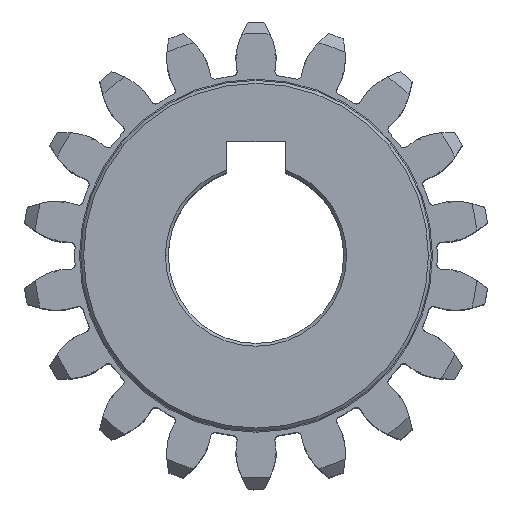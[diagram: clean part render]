
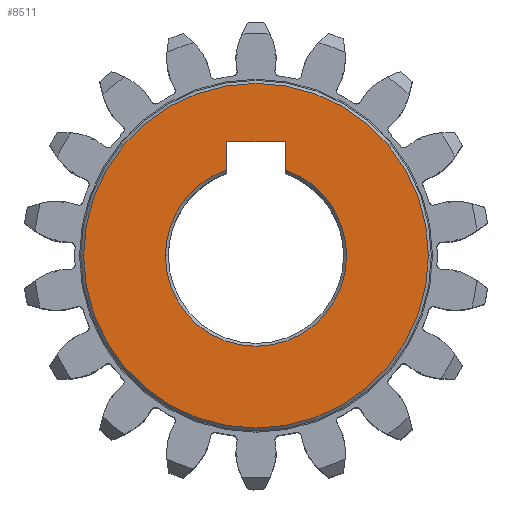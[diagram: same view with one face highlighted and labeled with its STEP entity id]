
A CAD part, top view. The second image highlights one B-rep face of the part: STEP entity #8511.
In plain terms, the highlighted planar face has unit normal (0, 0, 1).
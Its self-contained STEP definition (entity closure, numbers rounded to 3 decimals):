
#149 = VERTEX_POINT ( 'NONE', #7160 ) ;
#452 = CARTESIAN_POINT ( 'NONE',  ( -2.5, 7.336, 15. ) ) ;
#600 = ORIENTED_EDGE ( 'NONE', *, *, #6805, .T. ) ;
#635 = CIRCLE ( 'NONE', #6516, 14.75 ) ;
#829 = ORIENTED_EDGE ( 'NONE', *, *, #11218, .T. ) ;
#917 = CARTESIAN_POINT ( 'NONE',  ( -2.5, 5.2, 15. ) ) ;
#937 = VERTEX_POINT ( 'NONE', #9458 ) ;
#1458 = ORIENTED_EDGE ( 'NONE', *, *, #5210, .T. ) ;
#1547 = AXIS2_PLACEMENT_3D ( 'NONE', #8052, #5467, #8104 ) ;
#1621 = CARTESIAN_POINT ( 'NONE',  ( 2.5, 7.336, 15. ) ) ;
#1880 = CARTESIAN_POINT ( 'NONE',  ( 0., 0., 15. ) ) ;
#1908 = DIRECTION ( 'NONE',  ( 0., 0., -1. ) ) ;
#2032 = VERTEX_POINT ( 'NONE', #6965 ) ;
#2118 = CIRCLE ( 'NONE', #1547, 7.75 ) ;
#2296 = LINE ( 'NONE', #10042, #4450 ) ;
#2382 = DIRECTION ( 'NONE',  ( 0., 0., -1. ) ) ;
#2726 = DIRECTION ( 'NONE',  ( 0., 1., 0. ) ) ;
#2941 = ORIENTED_EDGE ( 'NONE', *, *, #6914, .T. ) ;
#3902 = EDGE_LOOP ( 'NONE', ( #10245, #9895, #1458, #2941, #10469, #829 ) ) ;
#3977 = VECTOR ( 'NONE', #7912, 1000. ) ;
#3979 = AXIS2_PLACEMENT_3D ( 'NONE', #1880, #5383, #9745 ) ;
#4161 = EDGE_CURVE ( 'NONE', #5226, #4443, #2118, .T. ) ;
#4163 = CARTESIAN_POINT ( 'NONE',  ( 0., 0., 15. ) ) ;
#4443 = VERTEX_POINT ( 'NONE', #5964 ) ;
#4450 = VECTOR ( 'NONE', #10270, 1000. ) ;
#4553 = DIRECTION ( 'NONE',  ( 1., 0., 0. ) ) ;
#4642 = EDGE_CURVE ( 'NONE', #149, #5226, #8995, .T. ) ;
#4816 = CIRCLE ( 'NONE', #11236, 14.75 ) ;
#4871 = VECTOR ( 'NONE', #2726, 1000. ) ;
#4960 = DIRECTION ( 'NONE',  ( 1., 0., 0. ) ) ;
#5010 = DIRECTION ( 'NONE',  ( 0., 0., 1. ) ) ;
#5127 = EDGE_LOOP ( 'NONE', ( #600, #7518 ) ) ;
#5210 = EDGE_CURVE ( 'NONE', #4443, #10730, #9426, .T. ) ;
#5226 = VERTEX_POINT ( 'NONE', #1621 ) ;
#5383 = DIRECTION ( 'NONE',  ( 0., 0., 1. ) ) ;
#5467 = DIRECTION ( 'NONE',  ( 0., 0., -1. ) ) ;
#5485 = DIRECTION ( 'NONE',  ( 1., 0., 0. ) ) ;
#5830 = DIRECTION ( 'NONE',  ( 1., 0., 0. ) ) ;
#5964 = CARTESIAN_POINT ( 'NONE',  ( 7.75, 0., 15. ) ) ;
#6067 = FACE_BOUND ( 'NONE', #3902, .T. ) ;
#6202 = CARTESIAN_POINT ( 'NONE',  ( 2.5, 5.2, 15. ) ) ;
#6233 = CARTESIAN_POINT ( 'NONE',  ( 0., 0., 15. ) ) ;
#6402 = DIRECTION ( 'NONE',  ( 0., 0., 1. ) ) ;
#6516 = AXIS2_PLACEMENT_3D ( 'NONE', #9590, #5010, #4960 ) ;
#6805 = EDGE_CURVE ( 'NONE', #2032, #11063, #635, .T. ) ;
#6914 = EDGE_CURVE ( 'NONE', #10730, #8009, #8173, .T. ) ;
#6965 = CARTESIAN_POINT ( 'NONE',  ( -14.75, 0., 15. ) ) ;
#6975 = EDGE_CURVE ( 'NONE', #8009, #937, #8056, .T. ) ;
#7160 = CARTESIAN_POINT ( 'NONE',  ( 2.5, 9.8, 15. ) ) ;
#7518 = ORIENTED_EDGE ( 'NONE', *, *, #10966, .T. ) ;
#7865 = CARTESIAN_POINT ( 'NONE',  ( 14.75, 0., 15. ) ) ;
#7912 = DIRECTION ( 'NONE',  ( 0., -1., 0. ) ) ;
#8009 = VERTEX_POINT ( 'NONE', #452 ) ;
#8052 = CARTESIAN_POINT ( 'NONE',  ( 0., 0., 15. ) ) ;
#8056 = LINE ( 'NONE', #917, #4871 ) ;
#8104 = DIRECTION ( 'NONE',  ( 1., 0., 0. ) ) ;
#8173 = CIRCLE ( 'NONE', #8518, 7.75 ) ;
#8511 = ADVANCED_FACE ( 'NONE', ( #10502, #6067 ), #8642, .T. ) ;
#8518 = AXIS2_PLACEMENT_3D ( 'NONE', #9715, #1908, #4553 ) ;
#8642 = PLANE ( 'NONE',  #3979 ) ;
#8985 = CARTESIAN_POINT ( 'NONE',  ( -7.75, 0., 15. ) ) ;
#8995 = LINE ( 'NONE', #6202, #3977 ) ;
#9426 = CIRCLE ( 'NONE', #11286, 7.75 ) ;
#9458 = CARTESIAN_POINT ( 'NONE',  ( -2.5, 9.8, 15. ) ) ;
#9590 = CARTESIAN_POINT ( 'NONE',  ( 0., 0., 15. ) ) ;
#9715 = CARTESIAN_POINT ( 'NONE',  ( 0., 0., 15. ) ) ;
#9745 = DIRECTION ( 'NONE',  ( 1., 0., 0. ) ) ;
#9895 = ORIENTED_EDGE ( 'NONE', *, *, #4161, .T. ) ;
#10042 = CARTESIAN_POINT ( 'NONE',  ( 2.5, 9.8, 15. ) ) ;
#10245 = ORIENTED_EDGE ( 'NONE', *, *, #4642, .T. ) ;
#10270 = DIRECTION ( 'NONE',  ( 1., 0., 0. ) ) ;
#10469 = ORIENTED_EDGE ( 'NONE', *, *, #6975, .T. ) ;
#10502 = FACE_OUTER_BOUND ( 'NONE', #5127, .T. ) ;
#10730 = VERTEX_POINT ( 'NONE', #8985 ) ;
#10966 = EDGE_CURVE ( 'NONE', #11063, #2032, #4816, .T. ) ;
#11063 = VERTEX_POINT ( 'NONE', #7865 ) ;
#11218 = EDGE_CURVE ( 'NONE', #937, #149, #2296, .T. ) ;
#11236 = AXIS2_PLACEMENT_3D ( 'NONE', #6233, #6402, #5485 ) ;
#11286 = AXIS2_PLACEMENT_3D ( 'NONE', #4163, #2382, #5830 ) ;
